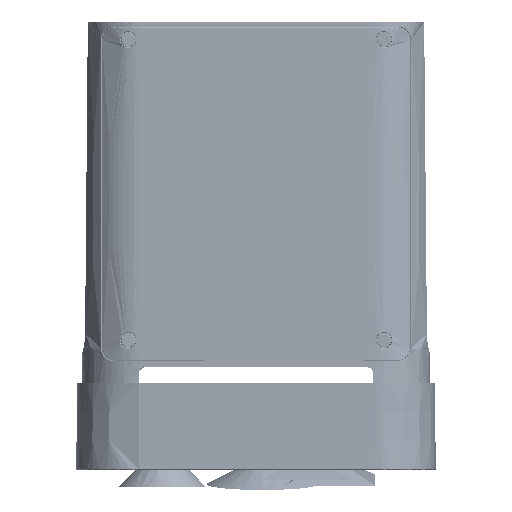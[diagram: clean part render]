
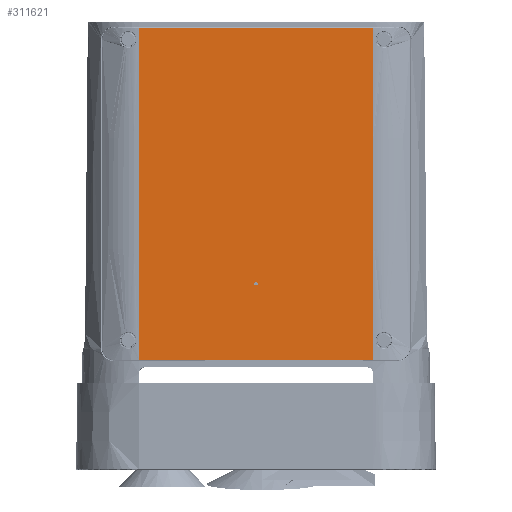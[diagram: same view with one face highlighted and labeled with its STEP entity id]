
A CAD part, top view. The second image highlights one B-rep face of the part: STEP entity #311621.
In plain terms, the highlighted planar face has unit normal (0, 0.009, 1).
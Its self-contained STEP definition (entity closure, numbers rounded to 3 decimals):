
#305090=VECTOR('Line Direction',#305089,1.) ;
#310802=VECTOR('Line Direction',#310801,1.) ;
#305089=DIRECTION('Vector Direction',(-1.,0.,0.)) ;
#310801=DIRECTION('Vector Direction',(1.,0.,0.)) ;
#311551=DIRECTION('Axis2P3D Direction',(-0.,-0.009,-1.)) ;
#311552=DIRECTION('Axis2P3D XDirection',(-1.,0.,0.)) ;
#305067=CARTESIAN_POINT('Vertex',(94.5,35.236,-1.374)) ;
#305088=CARTESIAN_POINT('Line Origine',(94.911,35.236,-1.374)) ;
#305092=CARTESIAN_POINT('Vertex',(19.483,35.236,-1.374)) ;
#310500=CARTESIAN_POINT('Control Point',(19.532,141.824,-2.304)) ;
#310501=CARTESIAN_POINT('Control Point',(19.515,106.306,-1.994)) ;
#310502=CARTESIAN_POINT('Control Point',(19.499,70.777,-1.684)) ;
#310503=CARTESIAN_POINT('Control Point',(19.483,35.236,-1.374)) ;
#310504=CARTESIAN_POINT('Vertex',(19.532,141.824,-2.304)) ;
#310800=CARTESIAN_POINT('Line Origine',(18.9,141.824,-2.304)) ;
#310804=CARTESIAN_POINT('Vertex',(94.5,141.824,-2.304)) ;
#311369=CARTESIAN_POINT('Control Point',(94.5,35.236,-1.374)) ;
#311370=CARTESIAN_POINT('Control Point',(94.5,70.765,-1.684)) ;
#311371=CARTESIAN_POINT('Control Point',(94.5,106.295,-1.994)) ;
#311372=CARTESIAN_POINT('Control Point',(94.5,141.824,-2.304)) ;
#311550=CARTESIAN_POINT('Axis2P3D Location',(19.5,72.585,-1.7)) ;
#311562=CARTESIAN_POINT('Control Point',(57.,59.15,-1.583)) ;
#311563=CARTESIAN_POINT('Control Point',(56.928,59.15,-1.583)) ;
#311564=CARTESIAN_POINT('Control Point',(56.855,59.163,-1.583)) ;
#311565=CARTESIAN_POINT('Control Point',(56.784,59.185,-1.583)) ;
#311566=CARTESIAN_POINT('Control Point',(56.682,59.234,-1.583)) ;
#311567=CARTESIAN_POINT('Control Point',(56.594,59.305,-1.584)) ;
#311568=CARTESIAN_POINT('Control Point',(56.568,59.331,-1.584)) ;
#311569=CARTESIAN_POINT('Control Point',(56.518,59.389,-1.585)) ;
#311570=CARTESIAN_POINT('Control Point',(56.477,59.453,-1.585)) ;
#311571=CARTESIAN_POINT('Control Point',(56.459,59.488,-1.586)) ;
#311572=CARTESIAN_POINT('Control Point',(56.414,59.591,-1.587)) ;
#311573=CARTESIAN_POINT('Control Point',(56.395,59.701,-1.587)) ;
#311574=CARTESIAN_POINT('Control Point',(56.394,59.78,-1.588)) ;
#311575=CARTESIAN_POINT('Control Point',(56.409,59.89,-1.589)) ;
#311576=CARTESIAN_POINT('Control Point',(56.45,59.994,-1.59)) ;
#311577=CARTESIAN_POINT('Control Point',(56.467,60.029,-1.59)) ;
#311578=CARTESIAN_POINT('Control Point',(56.525,60.127,-1.591)) ;
#311579=CARTESIAN_POINT('Control Point',(56.604,60.211,-1.592)) ;
#311580=CARTESIAN_POINT('Control Point',(56.665,60.254,-1.592)) ;
#311581=CARTESIAN_POINT('Control Point',(56.768,60.309,-1.593)) ;
#311582=CARTESIAN_POINT('Control Point',(56.88,60.339,-1.593)) ;
#311583=CARTESIAN_POINT('Control Point',(56.92,60.346,-1.593)) ;
#311584=CARTESIAN_POINT('Control Point',(56.96,60.35,-1.593)) ;
#311585=CARTESIAN_POINT('Control Point',(57.,60.35,-1.593)) ;
#311586=CARTESIAN_POINT('Vertex',(57.,59.15,-1.583)) ;
#311588=CARTESIAN_POINT('Vertex',(57.,60.35,-1.593)) ;
#311592=CARTESIAN_POINT('Control Point',(57.,60.35,-1.593)) ;
#311593=CARTESIAN_POINT('Control Point',(57.072,60.35,-1.593)) ;
#311594=CARTESIAN_POINT('Control Point',(57.145,60.337,-1.593)) ;
#311595=CARTESIAN_POINT('Control Point',(57.216,60.315,-1.593)) ;
#311596=CARTESIAN_POINT('Control Point',(57.318,60.266,-1.592)) ;
#311597=CARTESIAN_POINT('Control Point',(57.406,60.195,-1.592)) ;
#311598=CARTESIAN_POINT('Control Point',(57.432,60.169,-1.592)) ;
#311599=CARTESIAN_POINT('Control Point',(57.482,60.111,-1.591)) ;
#311600=CARTESIAN_POINT('Control Point',(57.523,60.047,-1.591)) ;
#311601=CARTESIAN_POINT('Control Point',(57.541,60.012,-1.59)) ;
#311602=CARTESIAN_POINT('Control Point',(57.586,59.909,-1.589)) ;
#311603=CARTESIAN_POINT('Control Point',(57.605,59.799,-1.588)) ;
#311604=CARTESIAN_POINT('Control Point',(57.606,59.72,-1.588)) ;
#311605=CARTESIAN_POINT('Control Point',(57.591,59.61,-1.587)) ;
#311606=CARTESIAN_POINT('Control Point',(57.55,59.506,-1.586)) ;
#311607=CARTESIAN_POINT('Control Point',(57.533,59.471,-1.585)) ;
#311608=CARTESIAN_POINT('Control Point',(57.475,59.373,-1.585)) ;
#311609=CARTESIAN_POINT('Control Point',(57.396,59.289,-1.584)) ;
#311610=CARTESIAN_POINT('Control Point',(57.335,59.246,-1.584)) ;
#311611=CARTESIAN_POINT('Control Point',(57.232,59.191,-1.583)) ;
#311612=CARTESIAN_POINT('Control Point',(57.12,59.161,-1.583)) ;
#311613=CARTESIAN_POINT('Control Point',(57.08,59.154,-1.583)) ;
#311614=CARTESIAN_POINT('Control Point',(57.04,59.15,-1.583)) ;
#311615=CARTESIAN_POINT('Control Point',(57.,59.15,-1.583)) ;
#311553=AXIS2_PLACEMENT_3D('Plane Axis2P3D',#311550,#311551,#311552) ;
#311620=FACE_BOUND('',#311617,.T.) ;
#305094=EDGE_CURVE('',#305093,#305068,#305091,.F.) ;
#310506=EDGE_CURVE('',#310505,#305093,#310499,.T.) ;
#310806=EDGE_CURVE('',#310505,#310805,#310803,.T.) ;
#311373=EDGE_CURVE('',#305068,#310805,#311368,.T.) ;
#311590=EDGE_CURVE('',#311587,#311589,#311561,.T.) ;
#311616=EDGE_CURVE('',#311589,#311587,#311591,.T.) ;
#311554=PLANE('',#311553) ;
#311556=ORIENTED_EDGE('',*,*,#310506,.T.) ;
#311557=ORIENTED_EDGE('',*,*,#305094,.T.) ;
#311558=ORIENTED_EDGE('',*,*,#311373,.T.) ;
#311559=ORIENTED_EDGE('',*,*,#310806,.F.) ;
#311618=ORIENTED_EDGE('',*,*,#311590,.T.) ;
#311619=ORIENTED_EDGE('',*,*,#311616,.T.) ;
#305091=LINE('Line',#305088,#305090) ;
#310803=LINE('Line',#310800,#310802) ;
#311621=ADVANCED_FACE('Femto mega without covering ME\\59\\58\\37\\36\\Brep With Voids',(#311560,#311620),#311554,.F.) ;
#305068=VERTEX_POINT('',#305067) ;
#305093=VERTEX_POINT('',#305092) ;
#310505=VERTEX_POINT('',#310504) ;
#310805=VERTEX_POINT('',#310804) ;
#311587=VERTEX_POINT('',#311586) ;
#311589=VERTEX_POINT('',#311588) ;
#310499=B_SPLINE_CURVE_WITH_KNOTS('',3,(#310500,#310501,#310502,#310503),.UNSPECIFIED.,.F.,.U.,(4,4),(0.,150.743),.UNSPECIFIED.) ;
#311368=B_SPLINE_CURVE_WITH_KNOTS('',3,(#311369,#311370,#311371,#311372),.UNSPECIFIED.,.F.,.U.,(4,4),(2.149,108.74),.UNSPECIFIED.) ;
#311561=B_SPLINE_CURVE_WITH_KNOTS('',5,(#311562,#311563,#311564,#311565,#311566,#311567,#311568,#311569,#311570,#311571,#311572,#311573,#311574,#311575,#311576,#311577,#311578,#311579,#311580,#311581,#311582,#311583,#311584,#311585),.UNSPECIFIED.,.F.,.U.,(6,3,3,3,3,3,3,6),(0.,0.523,0.79,1.056,1.583,1.85,2.379,2.668),.UNSPECIFIED.) ;
#311591=B_SPLINE_CURVE_WITH_KNOTS('',5,(#311592,#311593,#311594,#311595,#311596,#311597,#311598,#311599,#311600,#311601,#311602,#311603,#311604,#311605,#311606,#311607,#311608,#311609,#311610,#311611,#311612,#311613,#311614,#311615),.UNSPECIFIED.,.F.,.U.,(6,3,3,3,3,3,3,6),(0.,0.523,0.79,1.056,1.583,1.85,2.379,2.668),.UNSPECIFIED.) ;
#311555=EDGE_LOOP('',(#311556,#311557,#311558,#311559)) ;
#311617=EDGE_LOOP('',(#311618,#311619)) ;
#311560=FACE_OUTER_BOUND('',#311555,.T.) ;
